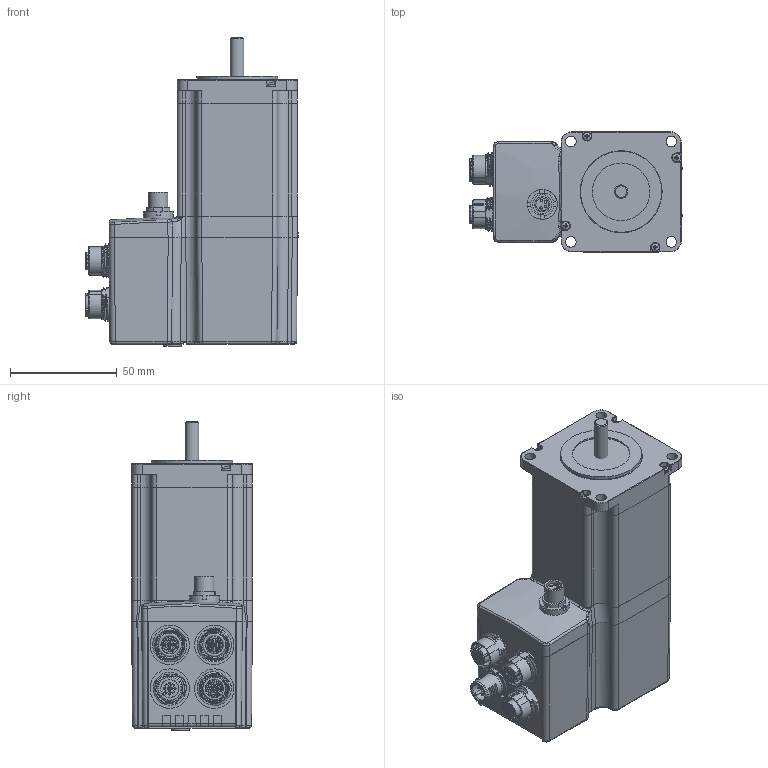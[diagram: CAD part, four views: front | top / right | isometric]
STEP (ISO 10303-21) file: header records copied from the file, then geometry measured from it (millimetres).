
FILE_DESCRIPTION(/* description */ ('Unknown'),/* implementation_level */ '2;1');
FILE_NAME(/* name */ 'mis232s1yyzzS6',/* time_stamp */ '2020-06-24T13:35:34+02:00',/* author */ ('Unknown'),/* organization */ ('Unknown'),/* preprocessor_version */ 'ST-DEVELOPER v16.7',/* originating_system */ 'Solid Edge',/* authorisation */ 'Unknown');
FILE_SCHEMA (('AUTOMOTIVE_DESIGN {1 0 10303 214 3 1 1}'));
Products named in the file (15): mis232s1yyzzS6; Motor_MIS23X_S; Shaft_MIS23X_S; Stator_MIS23X; Front_Cap_MIS23X_S; MM4100 V1_1 Rear Cover MIS23 G2 STO; Housing_MIS23X_Top_R8_S; Folie MIS23 TopLong_S; M12_5P_MALE; M12_17P_FEMALE; M12_4P_FEMALE; pan head cross recess screw_iso_ISO 7045 - M2 x 3 - Z - 3N; Lock_nut_S; HLTC-M8-04PFFP-STO; MT0020 without GND
Assembly tree (18 placements, depth 3):
  mis232s1yyzzS6
    Motor_MIS23X_S
      Shaft_MIS23X_S
      Stator_MIS23X
      Front_Cap_MIS23X_S
    MM4100 V1_1 Rear Cover MIS23 G2 STO
    Housing_MIS23X_Top_R8_S
    Folie MIS23 TopLong_S
    M12_5P_MALE
    M12_17P_FEMALE
    M12_4P_FEMALE  x2
    pan head cross recess screw_iso_ISO 7045 - M2 x 3 - Z - 3N  x4
    Lock_nut_S
    HLTC-M8-04PFFP-STO
    MT0020 without GND
Bounding box: 99.82 x 56.67 x 144.7 mm (x, y, z)
Volume: 437345.9 mm3; surface area: 88184.8 mm2
Topology: 17 solids, 22 shells, 2463 faces, 6386 edges, 4113 vertices
Faces by surface type: plane 1119, cylinder 628, bspline 350, torus 160, cone 159, sphere 47
Full cylindrical faces by diameter (mm): 0.217 x3, 0.6 x17, 1 x51, 1.1 x17, 1.2 x4, 1.52 x2, 1.6 x13, 2 x10, 2.05 x3, 2.2 x2, 2.5 x6, 3.3 x1, 4 x4, 5 x4, 6 x1, 6.35 x1, 6.755 x1, 7.18 x1, 7.555 x1, 9 x1, 9.917 x1, 10 x1, 10.7 x1, 10.9 x1, 11.13 x2, 12.2 x3, 13 x1, 13.25 x1, 14 x1, 14.6 x2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
Entity records: 75486 total; most frequent: CARTESIAN_POINT 29247, ORIENTED_EDGE 8980, DIRECTION 8039, EDGE_CURVE 4490, VERTEX_POINT 3072, AXIS2_PLACEMENT_3D 2923, FACE_BOUND 2448, EDGE_LOOP 2434
